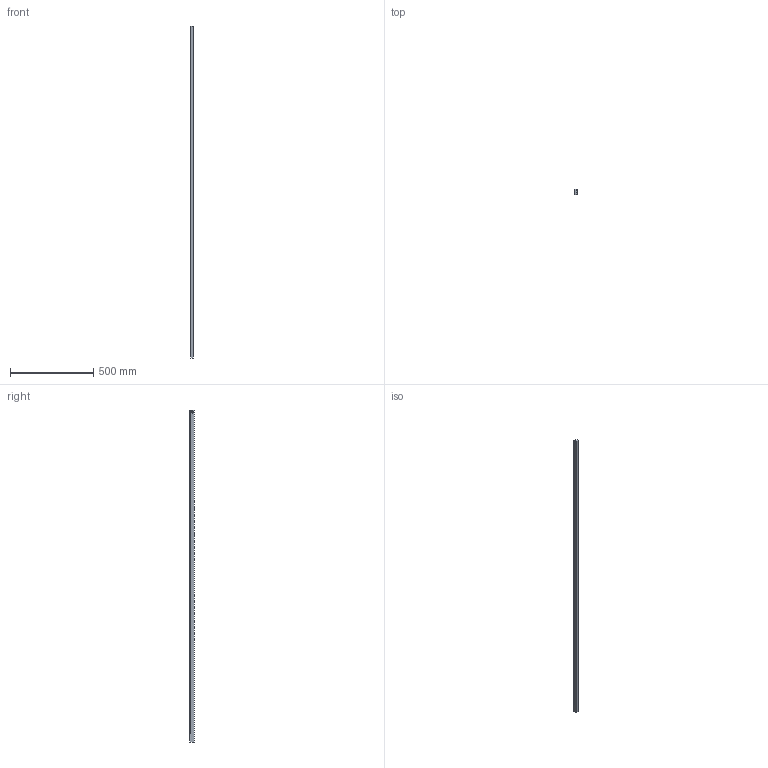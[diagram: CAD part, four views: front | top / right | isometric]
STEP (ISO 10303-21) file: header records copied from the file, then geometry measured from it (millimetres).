
FILE_DESCRIPTION (( 'STEP AP214' ), '1' );
FILE_NAME ('ZSZ 20.4218_61404.2597.18_STEP_20150226.STEP', '2015-02-26T10:39:06', ( '' ), ( '' ), 'SwSTEP 2.0', 'SolidWorks 2013', '' );
FILE_SCHEMA (( 'AUTOMOTIVE_DESIGN' ));
Length unit declared in the file: millimetre
Products named in the file (1): ZSZ 20.4218_61404.2597.18_STEP_20150226
Bounding box: 15 x 28 x 2000 mm (x, y, z)
Volume: 766036.3 mm3; surface area: 188720.4 mm2
Topology: 1 solids, 1 shells, 1876 faces, 5622 edges, 3748 vertices
Faces by surface type: plane 1250, cylinder 626
Entity records: 61916 total; most frequent: CARTESIAN_POINT 14973, ORIENTED_EDGE 11244, DIRECTION 8146, EDGE_CURVE 5622, LINE 4368, VECTOR 4368, VERTEX_POINT 3748, AXIS2_PLACEMENT_3D 1889
